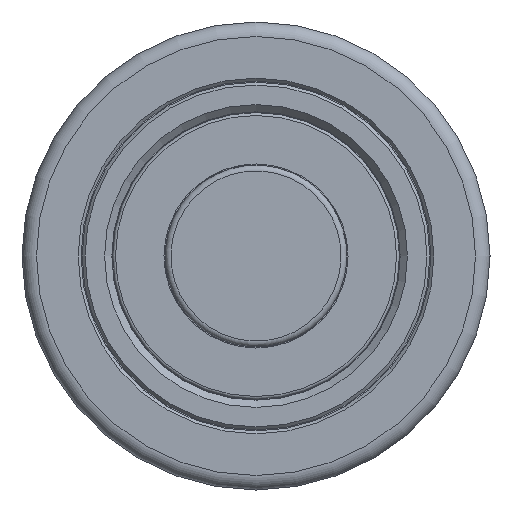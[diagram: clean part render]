
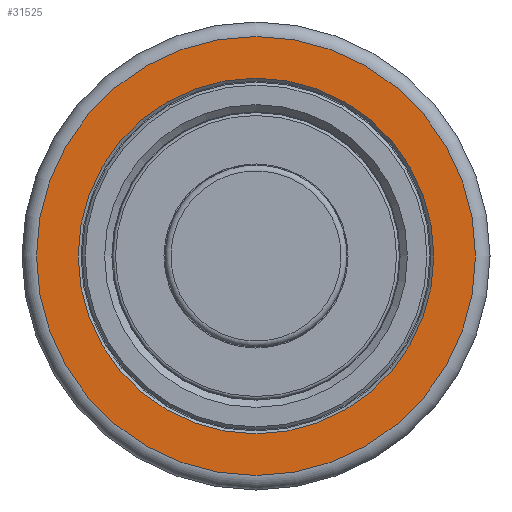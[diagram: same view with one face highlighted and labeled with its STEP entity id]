
A CAD part, front view. The second image highlights one B-rep face of the part: STEP entity #31525.
In plain terms, the highlighted planar face has unit normal (0, -1, 0).
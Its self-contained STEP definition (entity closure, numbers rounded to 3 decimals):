
#1328=PLANE('',#33183);
#1651=FACE_BOUND('',#4008,.T.);
#2276=FACE_OUTER_BOUND('',#4007,.T.);
#4007=EDGE_LOOP('',(#23241));
#4008=EDGE_LOOP('',(#23242));
#7755=CIRCLE('',#33179,15.15);
#7759=CIRCLE('',#33184,12.275);
#13283=VERTEX_POINT('',#52204);
#13286=VERTEX_POINT('',#52212);
#16971=EDGE_CURVE('',#13283,#13283,#7755,.T.);
#16975=EDGE_CURVE('',#13286,#13286,#7759,.T.);
#23241=ORIENTED_EDGE('',*,*,#16971,.F.);
#23242=ORIENTED_EDGE('',*,*,#16975,.F.);
#31525=ADVANCED_FACE('',(#2276,#1651),#1328,.T.);
#33179=AXIS2_PLACEMENT_3D('',#52205,#35558,#35559);
#33183=AXIS2_PLACEMENT_3D('',#52211,#35566,#35567);
#33184=AXIS2_PLACEMENT_3D('',#52213,#35568,#35569);
#35558=DIRECTION('center_axis',(0.,1.,0.));
#35559=DIRECTION('ref_axis',(-1.,0.,0.));
#35566=DIRECTION('center_axis',(0.,-1.,0.));
#35567=DIRECTION('ref_axis',(0.,0.,
1.));
#35568=DIRECTION('center_axis',(0.,-1.,0.));
#35569=DIRECTION('ref_axis',(-1.,0.,0.));
#52204=CARTESIAN_POINT('',(0.,-24.692,-15.15));
#52205=CARTESIAN_POINT('Origin',(0.,-24.692,
0.));
#52211=CARTESIAN_POINT('Origin',(12.075,-24.692,0.));
#52212=CARTESIAN_POINT('',(12.275,-24.692,0.));
#52213=CARTESIAN_POINT('Origin',(0.,-24.692,
0.));
